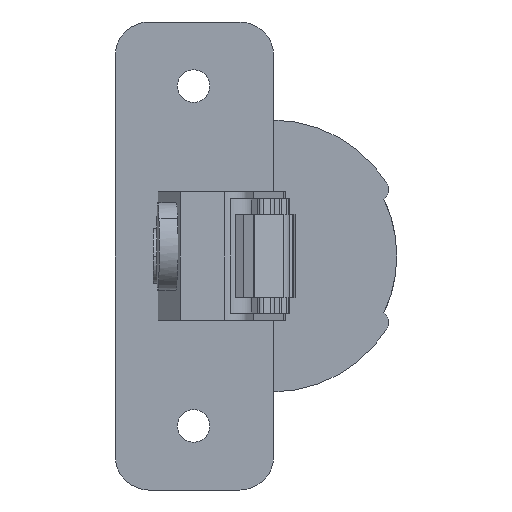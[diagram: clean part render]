
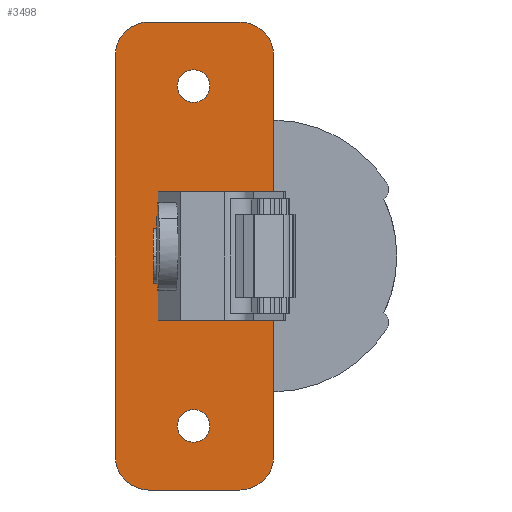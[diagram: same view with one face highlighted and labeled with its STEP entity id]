
A CAD part, left-side view. The second image highlights one B-rep face of the part: STEP entity #3498.
In plain terms, the highlighted planar face has unit normal (-1, -0.001, 0).
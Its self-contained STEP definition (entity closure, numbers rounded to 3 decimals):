
#68 = DIRECTION ( 'NONE',  ( 0., -1., 0. ) ) ;
#98 = VECTOR ( 'NONE', #68, 1000. ) ;
#160 = CARTESIAN_POINT ( 'NONE',  ( -6.634, -1.425, 22.5 ) ) ;
#162 = LINE ( 'NONE', #4126, #1608 ) ;
#165 = AXIS2_PLACEMENT_3D ( 'NONE', #2275, #2961, #3945 ) ;
#178 = EDGE_CURVE ( 'NONE', #2147, #738, #4086, .T. ) ;
#240 = VERTEX_POINT ( 'NONE', #1705 ) ;
#307 = ORIENTED_EDGE ( 'NONE', *, *, #753, .F. ) ;
#316 = CARTESIAN_POINT ( 'NONE',  ( -6.637, 4.512, -30.982 ) ) ;
#350 = AXIS2_PLACEMENT_3D ( 'NONE', #2274, #2001, #2960 ) ;
#372 = CARTESIAN_POINT ( 'NONE',  ( -6.636, 3.27, -8.5 ) ) ;
#456 = EDGE_CURVE ( 'NONE', #4128, #3916, #2555, .T. ) ;
#512 = CARTESIAN_POINT ( 'NONE',  ( -6.634, -1.425, -20.35 ) ) ;
#514 = EDGE_CURVE ( 'NONE', #738, #3785, #1967, .T. ) ;
#530 = ORIENTED_EDGE ( 'NONE', *, *, #3238, .T. ) ;
#568 = VECTOR ( 'NONE', #2940, 1000. ) ;
#603 = ORIENTED_EDGE ( 'NONE', *, *, #456, .T. ) ;
#658 = ORIENTED_EDGE ( 'NONE', *, *, #3271, .F. ) ;
#661 = LINE ( 'NONE', #1637, #568 ) ;
#677 = ORIENTED_EDGE ( 'NONE', *, *, #2509, .F. ) ;
#694 = FACE_BOUND ( 'NONE', #2124, .T. ) ;
#706 = VECTOR ( 'NONE', #3627, 1000. ) ;
#738 = VERTEX_POINT ( 'NONE', #316 ) ;
#753 = EDGE_CURVE ( 'NONE', #1930, #2318, #2278, .T. ) ;
#780 = AXIS2_PLACEMENT_3D ( 'NONE', #2051, #3361, #2409 ) ;
#792 = EDGE_LOOP ( 'NONE', ( #2982, #307, #1890, #3089, #3415, #3958, #603, #530, #1901, #3781, #1679, #2325 ) ) ;
#800 = EDGE_CURVE ( 'NONE', #1159, #2412, #2943, .T. ) ;
#829 = DIRECTION ( 'NONE',  ( 0., 0., 1. ) ) ;
#845 = DIRECTION ( 'NONE',  ( 0., 0., 1. ) ) ;
#859 = DIRECTION ( 'NONE',  ( -1., 0., 0. ) ) ;
#861 = CARTESIAN_POINT ( 'NONE',  ( -6.637, 4.512, 30.982 ) ) ;
#1021 = DIRECTION ( 'NONE',  ( 0., 0., 1. ) ) ;
#1096 = CARTESIAN_POINT ( 'NONE',  ( -6.635, 0.308, 8.5 ) ) ;
#1113 = CARTESIAN_POINT ( 'NONE',  ( -6.634, -1.425, 24.65 ) ) ;
#1126 = VERTEX_POINT ( 'NONE', #2792 ) ;
#1133 = CIRCLE ( 'NONE', #2230, 2.15 ) ;
#1159 = VERTEX_POINT ( 'NONE', #4236 ) ;
#1194 = VECTOR ( 'NONE', #4148, 1000. ) ;
#1252 = CARTESIAN_POINT ( 'NONE',  ( -6.631, -7.561, 26.536 ) ) ;
#1407 = AXIS2_PLACEMENT_3D ( 'NONE', #1252, #1542, #845 ) ;
#1410 = CIRCLE ( 'NONE', #1407, 4.446 ) ;
#1426 = VERTEX_POINT ( 'NONE', #1789 ) ;
#1430 = CARTESIAN_POINT ( 'NONE',  ( -6.629, -12.006, -8.5 ) ) ;
#1480 = EDGE_LOOP ( 'NONE', ( #658, #677 ) ) ;
#1505 = LINE ( 'NONE', #2805, #2645 ) ;
#1541 = EDGE_CURVE ( 'NONE', #1426, #3204, #162, .T. ) ;
#1542 = DIRECTION ( 'NONE',  ( -1., 0., 0. ) ) ;
#1608 = VECTOR ( 'NONE', #829, 1000. ) ;
#1629 = DIRECTION ( 'NONE',  ( -1., 0., 0. ) ) ;
#1637 = CARTESIAN_POINT ( 'NONE',  ( -6.639, 8.958, -26.536 ) ) ;
#1660 = ORIENTED_EDGE ( 'NONE', *, *, #2893, .F. ) ;
#1679 = ORIENTED_EDGE ( 'NONE', *, *, #2229, .T. ) ;
#1684 = CIRCLE ( 'NONE', #2223, 4.446 ) ;
#1705 = CARTESIAN_POINT ( 'NONE',  ( -6.634, -1.425, -24.65 ) ) ;
#1725 = CARTESIAN_POINT ( 'NONE',  ( -6.639, 8.958, -26.536 ) ) ;
#1789 = CARTESIAN_POINT ( 'NONE',  ( -6.629, -12.006, 8.5 ) ) ;
#1805 = VERTEX_POINT ( 'NONE', #512 ) ;
#1834 = CIRCLE ( 'NONE', #2158, 2.15 ) ;
#1852 = CARTESIAN_POINT ( 'NONE',  ( -6.634, -1.425, 20.35 ) ) ;
#1890 = ORIENTED_EDGE ( 'NONE', *, *, #2143, .T. ) ;
#1901 = ORIENTED_EDGE ( 'NONE', *, *, #178, .T. ) ;
#1930 = VERTEX_POINT ( 'NONE', #3292 ) ;
#1942 = AXIS2_PLACEMENT_3D ( 'NONE', #2346, #3911, #2329 ) ;
#1958 = ORIENTED_EDGE ( 'NONE', *, *, #2144, .F. ) ;
#1967 = LINE ( 'NONE', #3633, #2696 ) ;
#2001 = DIRECTION ( 'NONE',  ( -1., 0., 0. ) ) ;
#2004 = DIRECTION ( 'NONE',  ( 0., 0., -1. ) ) ;
#2051 = CARTESIAN_POINT ( 'NONE',  ( -6.634, -1.425, -22.5 ) ) ;
#2076 = DIRECTION ( 'NONE',  ( 0., 0., 1. ) ) ;
#2080 = VECTOR ( 'NONE', #2004, 1000. ) ;
#2081 = VERTEX_POINT ( 'NONE', #1113 ) ;
#2111 = LINE ( 'NONE', #1096, #98 ) ;
#2124 = EDGE_LOOP ( 'NONE', ( #1958, #1660 ) ) ;
#2143 = EDGE_CURVE ( 'NONE', #1930, #1426, #2111, .T. ) ;
#2144 = EDGE_CURVE ( 'NONE', #240, #1805, #3469, .T. ) ;
#2147 = VERTEX_POINT ( 'NONE', #1725 ) ;
#2158 = AXIS2_PLACEMENT_3D ( 'NONE', #2786, #3368, #2076 ) ;
#2223 = AXIS2_PLACEMENT_3D ( 'NONE', #4174, #859, #4149 ) ;
#2229 = EDGE_CURVE ( 'NONE', #3785, #1159, #1684, .T. ) ;
#2230 = AXIS2_PLACEMENT_3D ( 'NONE', #160, #4124, #2363 ) ;
#2274 = CARTESIAN_POINT ( 'NONE',  ( -6.637, 4.512, -26.536 ) ) ;
#2275 = CARTESIAN_POINT ( 'NONE',  ( -6.634, -1.425, 22.5 ) ) ;
#2278 = LINE ( 'NONE', #2603, #2080 ) ;
#2318 = VERTEX_POINT ( 'NONE', #372 ) ;
#2325 = ORIENTED_EDGE ( 'NONE', *, *, #800, .T. ) ;
#2329 = DIRECTION ( 'NONE',  ( 0., 0., 1. ) ) ;
#2334 = CARTESIAN_POINT ( 'NONE',  ( -6.631, -7.561, -26.536 ) ) ;
#2346 = CARTESIAN_POINT ( 'NONE',  ( -6.637, 4.512, 26.536 ) ) ;
#2352 = PLANE ( 'NONE',  #3825 ) ;
#2363 = DIRECTION ( 'NONE',  ( 0., 0., 1. ) ) ;
#2409 = DIRECTION ( 'NONE',  ( 0., 0., 1. ) ) ;
#2412 = VERTEX_POINT ( 'NONE', #1430 ) ;
#2501 = CIRCLE ( 'NONE', #165, 2.15 ) ;
#2509 = EDGE_CURVE ( 'NONE', #2577, #2081, #1133, .T. ) ;
#2535 = EDGE_CURVE ( 'NONE', #1126, #4128, #1505, .T. ) ;
#2555 = CIRCLE ( 'NONE', #1942, 4.446 ) ;
#2577 = VERTEX_POINT ( 'NONE', #1852 ) ;
#2603 = CARTESIAN_POINT ( 'NONE',  ( -6.636, 3.27, -8.5 ) ) ;
#2626 = CARTESIAN_POINT ( 'NONE',  ( -6.639, 8.958, 26.536 ) ) ;
#2645 = VECTOR ( 'NONE', #4142, 1000. ) ;
#2696 = VECTOR ( 'NONE', #3957, 1000. ) ;
#2786 = CARTESIAN_POINT ( 'NONE',  ( -6.634, -1.425, -22.5 ) ) ;
#2792 = CARTESIAN_POINT ( 'NONE',  ( -6.631, -7.561, 30.982 ) ) ;
#2805 = CARTESIAN_POINT ( 'NONE',  ( -6.637, 4.512, 30.982 ) ) ;
#2810 = LINE ( 'NONE', #3841, #1194 ) ;
#2883 = CARTESIAN_POINT ( 'NONE',  ( -6.631, -7.561, -30.982 ) ) ;
#2893 = EDGE_CURVE ( 'NONE', #1805, #240, #1834, .T. ) ;
#2908 = FACE_BOUND ( 'NONE', #1480, .T. ) ;
#2940 = DIRECTION ( 'NONE',  ( 0., 0., -1. ) ) ;
#2943 = LINE ( 'NONE', #4000, #706 ) ;
#2960 = DIRECTION ( 'NONE',  ( 0., 0., 1. ) ) ;
#2961 = DIRECTION ( 'NONE',  ( -1., 0., 0. ) ) ;
#2982 = ORIENTED_EDGE ( 'NONE', *, *, #3203, .T. ) ;
#3089 = ORIENTED_EDGE ( 'NONE', *, *, #1541, .T. ) ;
#3203 = EDGE_CURVE ( 'NONE', #2412, #2318, #2810, .T. ) ;
#3204 = VERTEX_POINT ( 'NONE', #3815 ) ;
#3238 = EDGE_CURVE ( 'NONE', #3916, #2147, #661, .T. ) ;
#3271 = EDGE_CURVE ( 'NONE', #2081, #2577, #2501, .T. ) ;
#3292 = CARTESIAN_POINT ( 'NONE',  ( -6.636, 3.27, 8.5 ) ) ;
#3361 = DIRECTION ( 'NONE',  ( -1., 0., 0. ) ) ;
#3368 = DIRECTION ( 'NONE',  ( -1., 0., 0. ) ) ;
#3405 = EDGE_CURVE ( 'NONE', #3204, #1126, #1410, .T. ) ;
#3415 = ORIENTED_EDGE ( 'NONE', *, *, #3405, .T. ) ;
#3469 = CIRCLE ( 'NONE', #780, 2.15 ) ;
#3498 = ADVANCED_FACE ( 'NONE', ( #3989, #694, #2908 ), #2352, .T. ) ;
#3627 = DIRECTION ( 'NONE',  ( 0., 0., 1. ) ) ;
#3633 = CARTESIAN_POINT ( 'NONE',  ( -6.631, -7.561, -30.982 ) ) ;
#3781 = ORIENTED_EDGE ( 'NONE', *, *, #514, .T. ) ;
#3785 = VERTEX_POINT ( 'NONE', #2883 ) ;
#3815 = CARTESIAN_POINT ( 'NONE',  ( -6.629, -12.006, 26.536 ) ) ;
#3825 = AXIS2_PLACEMENT_3D ( 'NONE', #2334, #1629, #1021 ) ;
#3841 = CARTESIAN_POINT ( 'NONE',  ( -6.633, -2.59, -8.5 ) ) ;
#3911 = DIRECTION ( 'NONE',  ( -1., 0., 0. ) ) ;
#3916 = VERTEX_POINT ( 'NONE', #2626 ) ;
#3945 = DIRECTION ( 'NONE',  ( 0., 0., 1. ) ) ;
#3957 = DIRECTION ( 'NONE',  ( 0., -1., 0. ) ) ;
#3958 = ORIENTED_EDGE ( 'NONE', *, *, #2535, .T. ) ;
#3989 = FACE_OUTER_BOUND ( 'NONE', #792, .T. ) ;
#4000 = CARTESIAN_POINT ( 'NONE',  ( -6.629, -12.006, 26.536 ) ) ;
#4086 = CIRCLE ( 'NONE', #350, 4.446 ) ;
#4124 = DIRECTION ( 'NONE',  ( -1., 0., 0. ) ) ;
#4126 = CARTESIAN_POINT ( 'NONE',  ( -6.629, -12.006, 26.536 ) ) ;
#4128 = VERTEX_POINT ( 'NONE', #861 ) ;
#4142 = DIRECTION ( 'NONE',  ( 0., 1., 0. ) ) ;
#4148 = DIRECTION ( 'NONE',  ( 0., 1., 0. ) ) ;
#4149 = DIRECTION ( 'NONE',  ( 0., 0., 1. ) ) ;
#4174 = CARTESIAN_POINT ( 'NONE',  ( -6.631, -7.561, -26.536 ) ) ;
#4236 = CARTESIAN_POINT ( 'NONE',  ( -6.629, -12.006, -26.536 ) ) ;
